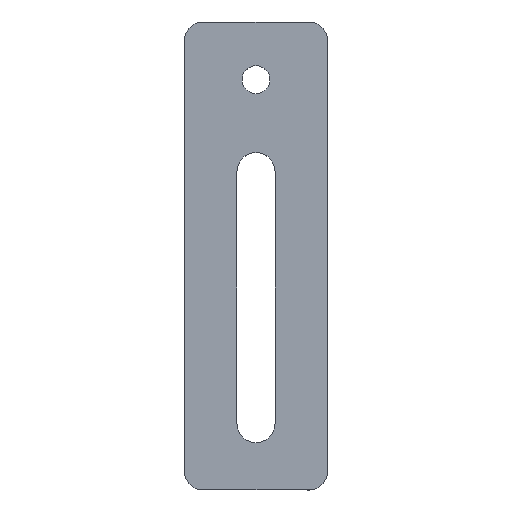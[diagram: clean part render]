
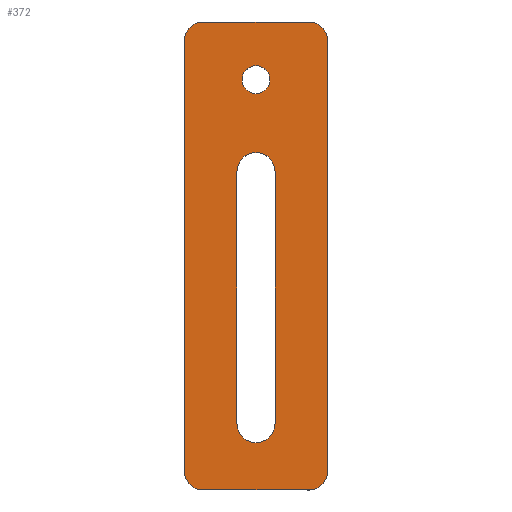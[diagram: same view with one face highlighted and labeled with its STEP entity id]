
A CAD part, top view. The second image highlights one B-rep face of the part: STEP entity #372.
In plain terms, the highlighted planar face has unit normal (0, 0, 1).
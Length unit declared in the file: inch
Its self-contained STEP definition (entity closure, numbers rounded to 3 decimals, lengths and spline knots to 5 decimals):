
#18=FACE_BOUND('',#71,.T.);
#19=FACE_BOUND('',#72,.T.);
#28=PLANE('',#432);
#47=FACE_OUTER_BOUND('',#70,.T.);
#70=EDGE_LOOP('',(#322,#323,#324,#325,#326,#327,#328,#329));
#71=EDGE_LOOP('',(#330));
#72=EDGE_LOOP('',(#331,#332,#333,#334));
#80=LINE('',#562,#113);
#88=LINE('',#593,#121);
#92=LINE('',#604,#125);
#94=LINE('',#612,#127);
#99=LINE('',#626,#132);
#107=LINE('',#648,#140);
#113=VECTOR('',#450,0.3937);
#121=VECTOR('',#478,0.3937);
#125=VECTOR('',#492,0.3937);
#127=VECTOR('',#500,0.3937);
#132=VECTOR('',#513,0.3937);
#140=VECTOR('',#539,0.3937);
#142=CIRCLE('',#399,0.125);
#150=CIRCLE('',#410,0.125);
#151=CIRCLE('',#413,0.125);
#152=CIRCLE('',#415,0.125);
#153=CIRCLE('',#418,0.09679);
#154=CIRCLE('',#421,0.1325);
#156=CIRCLE('',#425,0.1325);
#160=VERTEX_POINT('',#549);
#161=VERTEX_POINT('',#550);
#165=VERTEX_POINT('',#560);
#176=VERTEX_POINT('',#586);
#177=VERTEX_POINT('',#588);
#178=VERTEX_POINT('',#592);
#179=VERTEX_POINT('',#596);
#180=VERTEX_POINT('',#600);
#181=VERTEX_POINT('',#606);
#182=VERTEX_POINT('',#610);
#183=VERTEX_POINT('',#611);
#186=VERTEX_POINT('',#619);
#188=VERTEX_POINT('',#625);
#194=EDGE_CURVE('',#160,#161,#142,.T.);
#200=EDGE_CURVE('',#160,#165,#80,.T.);
#213=EDGE_CURVE('',#176,#177,#150,.T.);
#215=EDGE_CURVE('',#178,#177,#88,.T.);
#217=EDGE_CURVE('',#178,#179,#151,.T.);
#220=EDGE_CURVE('',#180,#165,#152,.T.);
#221=EDGE_CURVE('',#176,#161,#92,.T.);
#223=EDGE_CURVE('',#181,#181,#153,.T.);
#224=EDGE_CURVE('',#182,#183,#94,.T.);
#228=EDGE_CURVE('',#183,#186,#154,.T.);
#231=EDGE_CURVE('',#186,#188,#99,.T.);
#234=EDGE_CURVE('',#188,#182,#156,.T.);
#243=EDGE_CURVE('',#180,#179,#107,.T.);
#322=ORIENTED_EDGE('',*,*,#194,.F.);
#323=ORIENTED_EDGE('',*,*,#200,.T.);
#324=ORIENTED_EDGE('',*,*,#220,.F.);
#325=ORIENTED_EDGE('',*,*,#243,.T.);
#326=ORIENTED_EDGE('',*,*,#217,.F.);
#327=ORIENTED_EDGE('',*,*,#215,.T.);
#328=ORIENTED_EDGE('',*,*,#213,.F.);
#329=ORIENTED_EDGE('',*,*,#221,.T.);
#330=ORIENTED_EDGE('',*,*,#223,.T.);
#331=ORIENTED_EDGE('',*,*,#234,.T.);
#332=ORIENTED_EDGE('',*,*,#224,.T.);
#333=ORIENTED_EDGE('',*,*,#228,.T.);
#334=ORIENTED_EDGE('',*,*,#231,.T.);
#372=ADVANCED_FACE('',(#47,#18,#19),#28,.T.);
#399=AXIS2_PLACEMENT_3D('',#551,#440,#441);
#410=AXIS2_PLACEMENT_3D('',#589,#473,#474);
#413=AXIS2_PLACEMENT_3D('',#597,#482,#483);
#415=AXIS2_PLACEMENT_3D('',#602,#488,#489);
#418=AXIS2_PLACEMENT_3D('',#608,#496,#497);
#421=AXIS2_PLACEMENT_3D('',#620,#506,#507);
#425=AXIS2_PLACEMENT_3D('',#631,#518,#519);
#432=AXIS2_PLACEMENT_3D('',#647,#537,#538);
#440=DIRECTION('center_axis',(0.,0.,-1.));
#441=DIRECTION('ref_axis',(0.707,-0.707,0.));
#450=DIRECTION('',(0.,1.,0.));
#473=DIRECTION('center_axis',(0.,0.,-1.));
#474=DIRECTION('ref_axis',(-0.707,-0.707,0.));
#478=DIRECTION('',(0.,-1.,0.));
#482=DIRECTION('center_axis',(0.,0.,-1.));
#483=DIRECTION('ref_axis',(-0.707,0.707,0.));
#488=DIRECTION('center_axis',(0.,0.,-1.));
#489=DIRECTION('ref_axis',(0.707,0.707,0.));
#492=DIRECTION('',(1.,0.,0.));
#496=DIRECTION('center_axis',(0.,0.,-1.));
#497=DIRECTION('ref_axis',(-1.,0.,0.));
#500=DIRECTION('',(0.,1.,0.));
#506=DIRECTION('center_axis',(0.,0.,-1.));
#507=DIRECTION('ref_axis',(-1.,0.,0.));
#513=DIRECTION('',(0.,-1.,0.));
#518=DIRECTION('center_axis',(0.,0.,-1.));
#519=DIRECTION('ref_axis',(1.,0.,0.));
#537=DIRECTION('center_axis',(0.,0.,1.));
#538=DIRECTION('ref_axis',(1.,0.,0.));
#539=DIRECTION('',(-1.,0.,0.));
#549=CARTESIAN_POINT('',(-1.05676,-1.02772,0.96143));
#550=CARTESIAN_POINT('',(-1.18176,-1.15272,0.96143));
#551=CARTESIAN_POINT('Origin',(-1.18176,-1.02772,0.96143));
#560=CARTESIAN_POINT('',(-1.05676,1.97046,0.96143));
#562=CARTESIAN_POINT('',(-1.05676,1.28342,0.96143));
#586=CARTESIAN_POINT('',(-1.92176,-1.15272,0.96143));
#588=CARTESIAN_POINT('',(-2.04676,-1.02772,0.96143));
#589=CARTESIAN_POINT('Origin',(-1.92176,-1.02772,0.96143));
#592=CARTESIAN_POINT('',(-2.04676,1.97046,0.96143));
#593=CARTESIAN_POINT('',(-2.04676,-0.34067,0.96143));
#596=CARTESIAN_POINT('',(-1.92176,2.09546,0.96143));
#597=CARTESIAN_POINT('Origin',(-1.92176,1.97046,0.96143));
#600=CARTESIAN_POINT('',(-1.18176,2.09546,0.96143));
#602=CARTESIAN_POINT('Origin',(-1.18176,1.97046,0.96143));
#604=CARTESIAN_POINT('',(-2.24676,-1.15272,0.96143));
#606=CARTESIAN_POINT('',(-1.45496,1.69546,0.96143));
#608=CARTESIAN_POINT('Origin',(-1.55176,1.69546,0.96143));
#610=CARTESIAN_POINT('',(-1.68426,-0.69172,0.96143));
#611=CARTESIAN_POINT('',(-1.68426,1.05728,0.96143));
#612=CARTESIAN_POINT('',(-1.68426,-0.69172,0.96143));
#619=CARTESIAN_POINT('',(-1.41926,1.05728,0.96143));
#620=CARTESIAN_POINT('Origin',(-1.55176,1.05728,0.96143));
#625=CARTESIAN_POINT('',(-1.41926,-0.69172,0.96143));
#626=CARTESIAN_POINT('',(-1.41926,1.05728,0.96143));
#631=CARTESIAN_POINT('Origin',(-1.55176,-0.69172,0.96143));
#647=CARTESIAN_POINT('Origin',(-1.55176,0.47137,0.96143));
#648=CARTESIAN_POINT('',(-0.85676,2.09546,0.96143));
